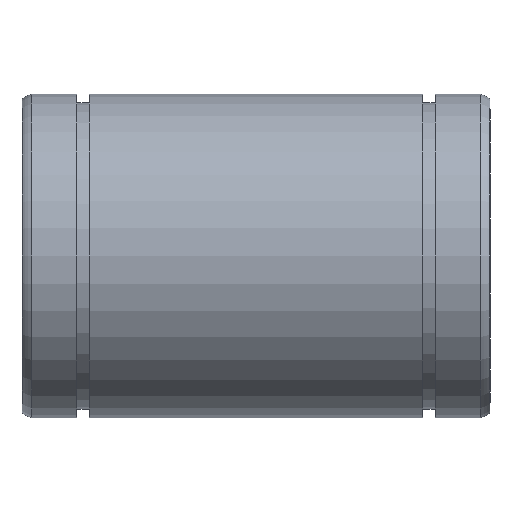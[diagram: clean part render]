
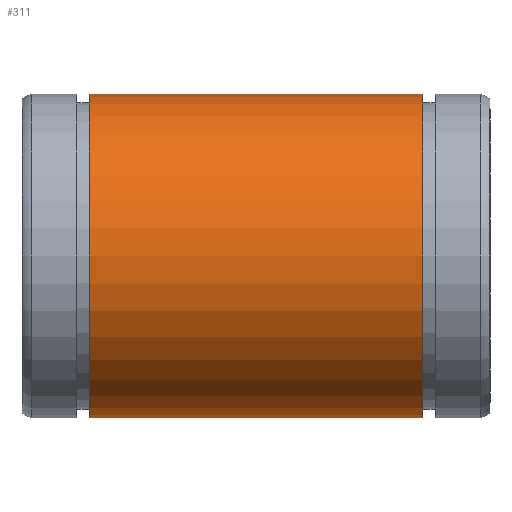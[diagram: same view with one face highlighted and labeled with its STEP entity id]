
A CAD part, front view. The second image highlights one B-rep face of the part: STEP entity #311.
In plain terms, the highlighted cylindrical face has radius 23.5 mm (diameter 47 mm), a full revolution.
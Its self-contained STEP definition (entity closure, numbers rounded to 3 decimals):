
#277=CARTESIAN_POINT('',(58.2,0.0,23.5));
#278=VERTEX_POINT('',#277);
#279=CARTESIAN_POINT('',(58.2,0.0,0.));
#280=DIRECTION('',(-1.0,0.0,0.0));
#281=DIRECTION('',(0.0,0.0,1.0));
#282=AXIS2_PLACEMENT_3D('',#279,#280,#281);
#283=CIRCLE('',#282,23.5);
#284=EDGE_CURVE('',#278,#278,#283,.T.);
#292=CARTESIAN_POINT('',(34.,0.0,0.));
#293=DIRECTION('',(-1.0,0.0,0.0));
#294=DIRECTION('',(0.0,0.0,1.0));
#295=AXIS2_PLACEMENT_3D('',#292,#293,#294);
#296=CYLINDRICAL_SURFACE('',#295,23.5);
#297=CARTESIAN_POINT('',(9.8,0.0,23.5));
#298=VERTEX_POINT('',#297);
#299=CARTESIAN_POINT('',(9.8,0.0,0.));
#300=DIRECTION('',(-1.0,0.0,0.0));
#301=DIRECTION('',(0.0,0.0,1.0));
#302=AXIS2_PLACEMENT_3D('',#299,#300,#301);
#303=CIRCLE('',#302,23.5);
#304=EDGE_CURVE('',#298,#298,#303,.T.);
#305=ORIENTED_EDGE('',*,*,#304,.F.);
#306=EDGE_LOOP('',(#305));
#307=FACE_OUTER_BOUND('',#306,.T.);
#308=ORIENTED_EDGE('',*,*,#284,.T.);
#309=EDGE_LOOP('',(#308));
#310=FACE_BOUND('',#309,.T.);
#311=ADVANCED_FACE('',(#307,#310),#296,.T.);
